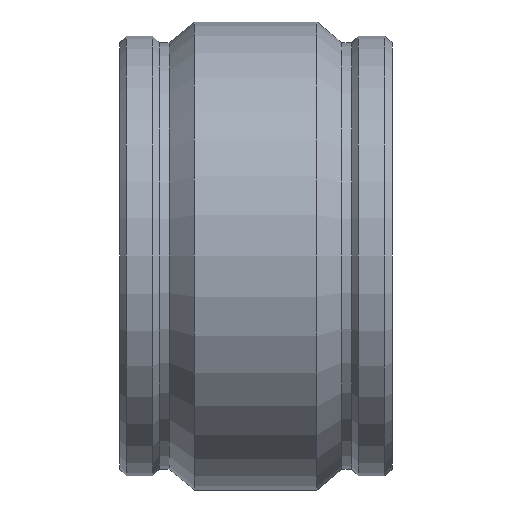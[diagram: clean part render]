
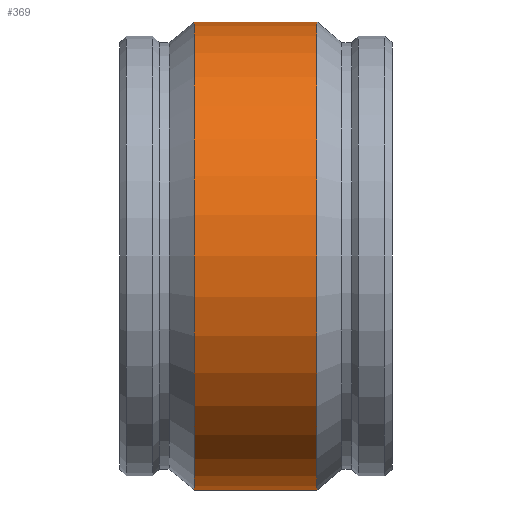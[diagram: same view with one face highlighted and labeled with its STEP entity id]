
A CAD part, front view. The second image highlights one B-rep face of the part: STEP entity #369.
In plain terms, the highlighted cylindrical face has radius 359.918 mm (diameter 719.836 mm), a full revolution.
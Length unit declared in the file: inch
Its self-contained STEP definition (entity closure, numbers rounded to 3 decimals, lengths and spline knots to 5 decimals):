
#17=CYLINDRICAL_SURFACE('',#423,14.17);
#28=LINE('',#646,#44);
#44=VECTOR('',#516,14.17);
#73=FACE_OUTER_BOUND('',#94,.T.);
#94=EDGE_LOOP('',(#281,#282,#283,#284,#285,#286));
#123=CIRCLE('',#421,14.17);
#124=CIRCLE('',#422,14.17);
#125=CIRCLE('',#424,14.17);
#126=CIRCLE('',#425,14.17);
#163=VERTEX_POINT('',#636);
#164=VERTEX_POINT('',#637);
#165=VERTEX_POINT('',#642);
#166=VERTEX_POINT('',#643);
#207=EDGE_CURVE('',#163,#164,#123,.T.);
#208=EDGE_CURVE('',#164,#163,#124,.T.);
#210=EDGE_CURVE('',#165,#166,#125,.T.);
#211=EDGE_CURVE('',#166,#165,#126,.T.);
#212=EDGE_CURVE('',#166,#164,#28,.T.);
#281=ORIENTED_EDGE('',*,*,#210,.F.);
#282=ORIENTED_EDGE('',*,*,#211,.F.);
#283=ORIENTED_EDGE('',*,*,#212,.T.);
#284=ORIENTED_EDGE('',*,*,#208,.T.);
#285=ORIENTED_EDGE('',*,*,#207,.T.);
#286=ORIENTED_EDGE('',*,*,#212,.F.);
#369=ADVANCED_FACE('',(#73),#17,.T.);
#421=AXIS2_PLACEMENT_3D('',#638,#505,#506);
#422=AXIS2_PLACEMENT_3D('',#639,#507,#508);
#423=AXIS2_PLACEMENT_3D('',#641,#510,#511);
#424=AXIS2_PLACEMENT_3D('',#644,#512,#513);
#425=AXIS2_PLACEMENT_3D('',#645,#514,#515);
#505=DIRECTION('center_axis',(1.,0.,0.));
#506=DIRECTION('ref_axis',(0.,0.,-1.));
#507=DIRECTION('center_axis',(1.,0.,0.));
#508=DIRECTION('ref_axis',(0.,0.,-1.));
#510=DIRECTION('center_axis',(1.,0.,0.));
#511=DIRECTION('ref_axis',(0.,1.,0.));
#512=DIRECTION('center_axis',(1.,0.,0.));
#513=DIRECTION('ref_axis',(0.,0.,-1.));
#514=DIRECTION('center_axis',(1.,0.,0.));
#515=DIRECTION('ref_axis',(0.,0.,-1.));
#516=DIRECTION('',(-1.,0.,0.));
#636=CARTESIAN_POINT('',(-3.7325,14.17,0.));
#637=CARTESIAN_POINT('',(-3.7325,-14.17,0.));
#638=CARTESIAN_POINT('Origin',(-3.7325,0.,0.));
#639=CARTESIAN_POINT('Origin',(-3.7325,0.,0.));
#641=CARTESIAN_POINT('Origin',(-0.02,0.,0.));
#642=CARTESIAN_POINT('',(3.6925,14.17,0.));
#643=CARTESIAN_POINT('',(3.6925,-14.17,0.));
#644=CARTESIAN_POINT('Origin',(3.6925,0.,0.));
#645=CARTESIAN_POINT('Origin',(3.6925,0.,0.));
#646=CARTESIAN_POINT('',(-0.02,-14.17,0.));
